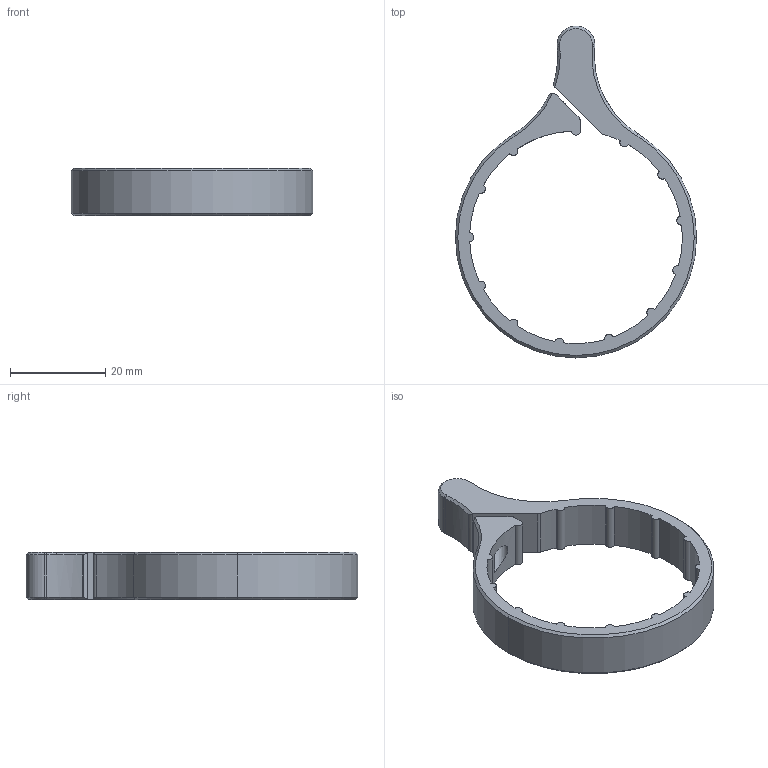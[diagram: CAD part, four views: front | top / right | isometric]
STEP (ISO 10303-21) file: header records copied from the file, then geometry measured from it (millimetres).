
FILE_DESCRIPTION (( 'STEP AP214' ), '1' );
FILE_NAME ('Vortex Strike Eagle 1-8x.STEP', '2020-01-07T22:55:22', ( '' ), ( '' ), 'SwSTEP 2.0', 'SolidWorks 2017', '' );
FILE_SCHEMA (( 'AUTOMOTIVE_DESIGN' ));
Length unit declared in the file: inch
Products named in the file (1): Vortex Strike Eagle 1-8x
Bounding box: 50.7 x 69.75 x 10 mm (x, y, z)
Volume: 6063.2 mm3; surface area: 4965.2 mm2
Topology: 1 solids, 1 shells, 83 faces, 220 edges, 141 vertices
Faces by surface type: cylinder 55, cone 20, plane 8
Entity records: 2783 total; most frequent: CARTESIAN_POINT 575, DIRECTION 505, ORIENTED_EDGE 440, EDGE_CURVE 220, AXIS2_PLACEMENT_3D 211, VERTEX_POINT 141, CIRCLE 127, EDGE_LOOP 89
